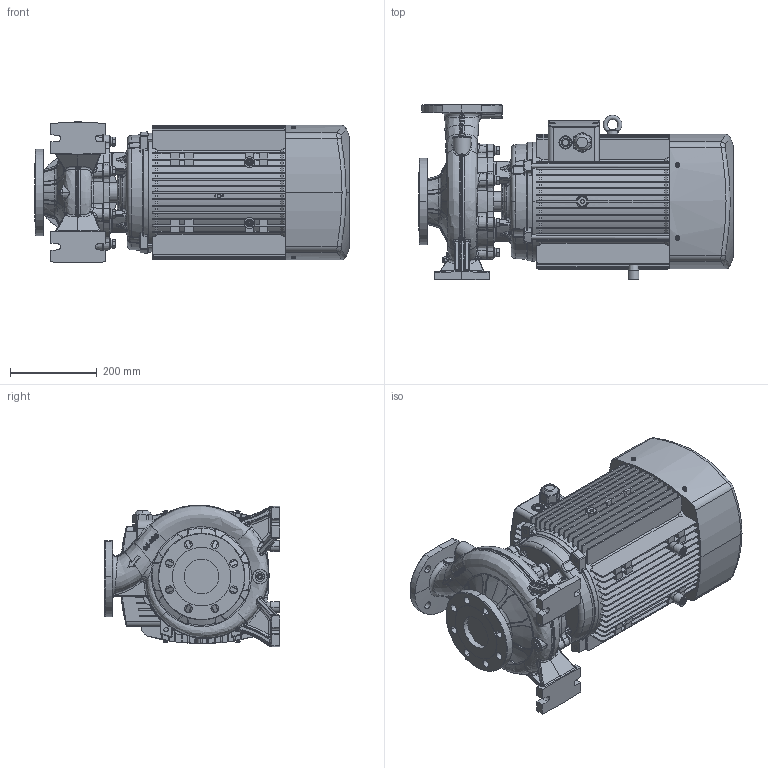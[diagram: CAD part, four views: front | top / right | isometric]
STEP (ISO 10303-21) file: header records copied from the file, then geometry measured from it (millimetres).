
FILE_DESCRIPTION (( 'STEP AP203' ), '1' );
FILE_NAME ('TST65-200-18.5 22 安装尺寸图.STEP', '2026-04-28T09:27:12', ( '微软用户' ), ( '微软中国' ), 'SwSTEP 2.0', 'SolidWorks 2020', '' );
FILE_SCHEMA (( 'CONFIG_CONTROL_DESIGN' ));
Products named in the file (1): TST65-200-18.5 22 假蚾喜渡芞
Bounding box: 726.5 x 405.58 x 327.09 mm (x, y, z)
Volume: 45391775.2 mm3; surface area: 2150706 mm2
Topology: 1 solids, 17 shells, 5597 faces, 13968 edges, 8781 vertices
Faces by surface type: plane 2855, bspline 1038, cylinder 913, cone 390, torus 292, sphere 109
Entity records: 223981 total; most frequent: CARTESIAN_POINT 98338, ORIENTED_EDGE 27832, DIRECTION 23448, EDGE_CURVE 13916, VERTEX_POINT 8777, AXIS2_PLACEMENT_3D 8065, LINE 7318, VECTOR 7318
